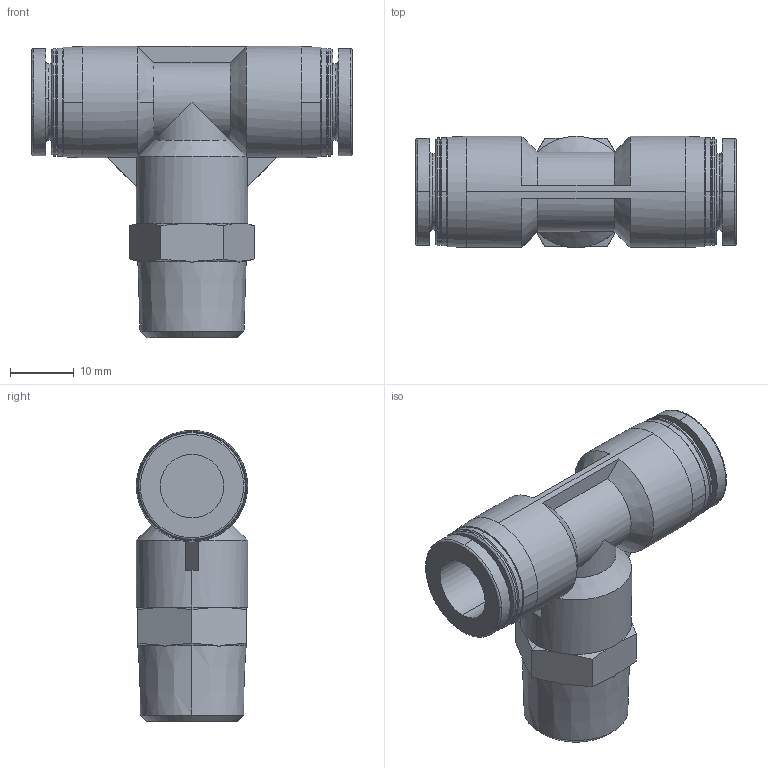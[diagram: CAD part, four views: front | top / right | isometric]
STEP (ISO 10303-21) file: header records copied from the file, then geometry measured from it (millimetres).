
FILE_DESCRIPTION (( 'STEP AP214' ), '1' );
FILE_NAME ('KQ2T10-03AS.STEP', '2023-03-06T09:33:01', ( 'Windows User' ), ( 'P R C' ), 'SwSTEP 2.0', 'SolidWorks 2019', '' );
FILE_SCHEMA (( 'AUTOMOTIVE_DESIGN' ));
Length unit declared in the file: millimetre
Products named in the file (1): KQ2T10-03AS
Bounding box: 50.4 x 17.5 x 45.75 mm (x, y, z)
Volume: 14072.4 mm3; surface area: 6687.2 mm2
Topology: 1 solids, 1 shells, 102 faces, 253 edges, 162 vertices
Faces by surface type: cone 40, cylinder 28, plane 26, bspline 8
Entity records: 3611 total; most frequent: CARTESIAN_POINT 1228, ORIENTED_EDGE 506, DIRECTION 493, EDGE_CURVE 253, AXIS2_PLACEMENT_3D 209, VERTEX_POINT 162, CIRCLE 114, EDGE_LOOP 111
